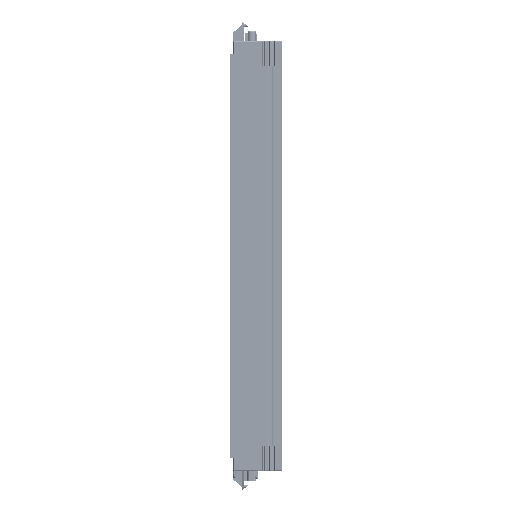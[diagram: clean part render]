
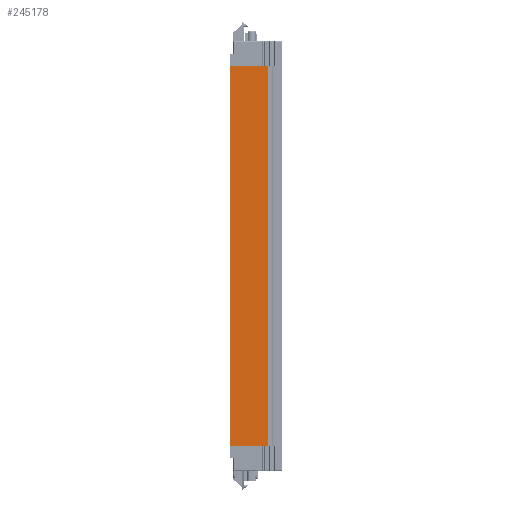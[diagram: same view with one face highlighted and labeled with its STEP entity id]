
A CAD part, front view. The second image highlights one B-rep face of the part: STEP entity #245178.
In plain terms, the highlighted planar face has unit normal (0, -1, 0).
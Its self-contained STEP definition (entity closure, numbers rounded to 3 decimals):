
#12998=FACE_OUTER_BOUND('',#26141,.T.);
#26141=EDGE_LOOP('',(#163446,#163447,#163448,#163449));
#47396=LINE('',#345350,#72756);
#47487=LINE('',#345604,#72847);
#47488=LINE('',#345608,#72848);
#47489=LINE('',#345609,#72849);
#72756=VECTOR('',#284056,10.);
#72847=VECTOR('',#284273,10.);
#72848=VECTOR('',#284278,10.);
#72849=VECTOR('',#284279,10.);
#97116=VERTEX_POINT('',#345347);
#97117=VERTEX_POINT('',#345349);
#97217=VERTEX_POINT('',#345603);
#97218=VERTEX_POINT('',#345607);
#122038=EDGE_CURVE('',#97117,#97116,#47396,.T.);
#122165=EDGE_CURVE('',#97217,#97117,#47487,.T.);
#122167=EDGE_CURVE('',#97218,#97116,#47488,.T.);
#122168=EDGE_CURVE('',#97217,#97218,#47489,.T.);
#163446=ORIENTED_EDGE('',*,*,#122038,.T.);
#163447=ORIENTED_EDGE('',*,*,#122167,.F.);
#163448=ORIENTED_EDGE('',*,*,#122168,.F.);
#163449=ORIENTED_EDGE('',*,*,#122165,.T.);
#223086=PLANE('',#259269);
#245178=ADVANCED_FACE('',(#12998),#223086,.T.);
#259269=AXIS2_PLACEMENT_3D('',#345606,#284276,#284277);
#284056=DIRECTION('',(-1.,0.,0.));
#284273=DIRECTION('',(0.,0.,1.));
#284276=DIRECTION('center_axis',(0.,-1.,0.));
#284277=DIRECTION('ref_axis',(0.,0.,
1.));
#284278=DIRECTION('',(0.,0.,1.));
#284279=DIRECTION('',(-1.,0.,0.));
#345347=CARTESIAN_POINT('',(-27.128,-36.52,285.));
#345349=CARTESIAN_POINT('',(3.83,-36.52,285.));
#345350=CARTESIAN_POINT('',(3.83,-36.52,285.));
#345603=CARTESIAN_POINT('',(3.83,-36.52,-30.2));
#345604=CARTESIAN_POINT('',(3.83,-36.52,185.));
#345606=CARTESIAN_POINT('Origin',(3.83,-36.52,185.));
#345607=CARTESIAN_POINT('',(-27.128,-36.52,-30.2));
#345608=CARTESIAN_POINT('',(-27.128,-36.52,185.));
#345609=CARTESIAN_POINT('',(3.83,-36.52,-30.2));
